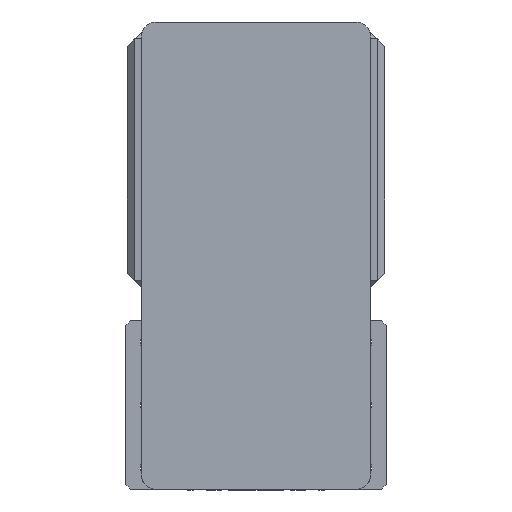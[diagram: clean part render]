
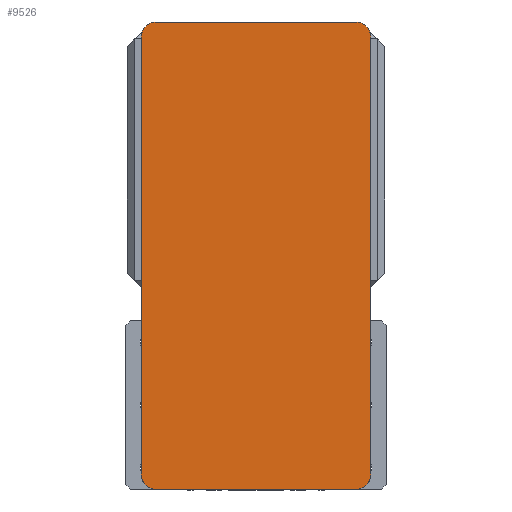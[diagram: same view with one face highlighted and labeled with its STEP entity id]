
A CAD part, left-side view. The second image highlights one B-rep face of the part: STEP entity #9526.
In plain terms, the highlighted planar face has unit normal (-1, 0, 0) as drawn and (0, 0, 1) by its records, which use the part's own axes.
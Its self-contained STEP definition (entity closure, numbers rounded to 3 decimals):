
#157 = VECTOR ( 'NONE', #10523, 1000. ) ;
#289 = VECTOR ( 'NONE', #3701, 1000. ) ;
#380 = ORIENTED_EDGE ( 'NONE', *, *, #5385, .T. ) ;
#442 = EDGE_CURVE ( 'NONE', #5328, #2314, #2598, .T. ) ;
#544 = DIRECTION ( 'NONE',  ( 0., 0., 1. ) ) ;
#806 = ORIENTED_EDGE ( 'NONE', *, *, #5756, .T. ) ;
#882 = CARTESIAN_POINT ( 'NONE',  ( -75., 142.5, 105. ) ) ;
#2243 = EDGE_CURVE ( 'NONE', #2314, #2342, #2716, .T. ) ;
#2303 = VERTEX_POINT ( 'NONE', #5320 ) ;
#2314 = VERTEX_POINT ( 'NONE', #4492 ) ;
#2342 = VERTEX_POINT ( 'NONE', #8076 ) ;
#2512 = EDGE_CURVE ( 'NONE', #8449, #3223, #9283, .T. ) ;
#2517 = CARTESIAN_POINT ( 'NONE',  ( 65., -152.5, 105. ) ) ;
#2598 = CIRCLE ( 'NONE', #10254, 10. ) ;
#2716 = LINE ( 'NONE', #2926, #7181 ) ;
#2789 = DIRECTION ( 'NONE',  ( 0., 1., 0. ) ) ;
#2926 = CARTESIAN_POINT ( 'NONE',  ( 75., 152.5, 105. ) ) ;
#3026 = CARTESIAN_POINT ( 'NONE',  ( 65., 142.5, 105. ) ) ;
#3123 = DIRECTION ( 'NONE',  ( 1., 0., 0. ) ) ;
#3223 = VERTEX_POINT ( 'NONE', #9255 ) ;
#3359 = ORIENTED_EDGE ( 'NONE', *, *, #442, .T. ) ;
#3692 = VECTOR ( 'NONE', #3123, 1000. ) ;
#3701 = DIRECTION ( 'NONE',  ( -1., 0., 0. ) ) ;
#3935 = DIRECTION ( 'NONE',  ( 1., 0., 0. ) ) ;
#4171 = VERTEX_POINT ( 'NONE', #4735 ) ;
#4422 = CARTESIAN_POINT ( 'NONE',  ( -75., 152.5, 105. ) ) ;
#4492 = CARTESIAN_POINT ( 'NONE',  ( 75., -142.5, 105. ) ) ;
#4518 = LINE ( 'NONE', #9838, #289 ) ;
#4735 = CARTESIAN_POINT ( 'NONE',  ( 65., 152.5, 105. ) ) ;
#4877 = CARTESIAN_POINT ( 'NONE',  ( -65., 142.5, 105. ) ) ;
#4915 = CARTESIAN_POINT ( 'NONE',  ( -75., -152.5, 105. ) ) ;
#4979 = DIRECTION ( 'NONE',  ( 1., 0., 0. ) ) ;
#5192 = CARTESIAN_POINT ( 'NONE',  ( 65., -142.5, 105. ) ) ;
#5252 = AXIS2_PLACEMENT_3D ( 'NONE', #3026, #9163, #3935 ) ;
#5320 = CARTESIAN_POINT ( 'NONE',  ( -65., 152.5, 105. ) ) ;
#5328 = VERTEX_POINT ( 'NONE', #2517 ) ;
#5385 = EDGE_CURVE ( 'NONE', #8145, #5328, #10404, .T. ) ;
#5443 = EDGE_CURVE ( 'NONE', #3223, #8145, #5513, .T. ) ;
#5513 = CIRCLE ( 'NONE', #6578, 10. ) ;
#5756 = EDGE_CURVE ( 'NONE', #4171, #2303, #4518, .T. ) ;
#5784 = DIRECTION ( 'NONE',  ( 1., 0., 0. ) ) ;
#5931 = EDGE_CURVE ( 'NONE', #2342, #4171, #7560, .T. ) ;
#5939 = CARTESIAN_POINT ( 'NONE',  ( -65., -142.5, 105. ) ) ;
#6563 = CARTESIAN_POINT ( 'NONE',  ( -65., -152.5, 105. ) ) ;
#6574 = AXIS2_PLACEMENT_3D ( 'NONE', #9306, #10200, #4979 ) ;
#6578 = AXIS2_PLACEMENT_3D ( 'NONE', #5939, #544, #6819 ) ;
#6819 = DIRECTION ( 'NONE',  ( 1., 0., 0. ) ) ;
#6975 = DIRECTION ( 'NONE',  ( 0., 0., 1. ) ) ;
#7181 = VECTOR ( 'NONE', #2789, 1000. ) ;
#7437 = DIRECTION ( 'NONE',  ( 1., 0., 0. ) ) ;
#7560 = CIRCLE ( 'NONE', #5252, 10. ) ;
#7608 = PLANE ( 'NONE',  #6574 ) ;
#7732 = ORIENTED_EDGE ( 'NONE', *, *, #2512, .T. ) ;
#7811 = EDGE_LOOP ( 'NONE', ( #380, #3359, #8965, #10475, #806, #11002, #7732, #8255 ) ) ;
#8076 = CARTESIAN_POINT ( 'NONE',  ( 75., 142.5, 105. ) ) ;
#8145 = VERTEX_POINT ( 'NONE', #6563 ) ;
#8244 = FACE_OUTER_BOUND ( 'NONE', #7811, .T. ) ;
#8255 = ORIENTED_EDGE ( 'NONE', *, *, #5443, .T. ) ;
#8449 = VERTEX_POINT ( 'NONE', #882 ) ;
#8809 = EDGE_CURVE ( 'NONE', #2303, #8449, #9605, .T. ) ;
#8965 = ORIENTED_EDGE ( 'NONE', *, *, #2243, .T. ) ;
#9163 = DIRECTION ( 'NONE',  ( 0., 0., 1. ) ) ;
#9228 = AXIS2_PLACEMENT_3D ( 'NONE', #4877, #10956, #5784 ) ;
#9255 = CARTESIAN_POINT ( 'NONE',  ( -75., -142.5, 105. ) ) ;
#9283 = LINE ( 'NONE', #4422, #157 ) ;
#9306 = CARTESIAN_POINT ( 'NONE',  ( 0., 0., 105. ) ) ;
#9526 = ADVANCED_FACE ( 'NONE', ( #8244 ), #7608, .T. ) ;
#9605 = CIRCLE ( 'NONE', #9228, 10. ) ;
#9838 = CARTESIAN_POINT ( 'NONE',  ( -75., 152.5, 105. ) ) ;
#10200 = DIRECTION ( 'NONE',  ( 0., 0., 1. ) ) ;
#10254 = AXIS2_PLACEMENT_3D ( 'NONE', #5192, #6975, #7437 ) ;
#10404 = LINE ( 'NONE', #4915, #3692 ) ;
#10475 = ORIENTED_EDGE ( 'NONE', *, *, #5931, .T. ) ;
#10523 = DIRECTION ( 'NONE',  ( 0., -1., 0. ) ) ;
#10956 = DIRECTION ( 'NONE',  ( 0., 0., 1. ) ) ;
#11002 = ORIENTED_EDGE ( 'NONE', *, *, #8809, .T. ) ;
